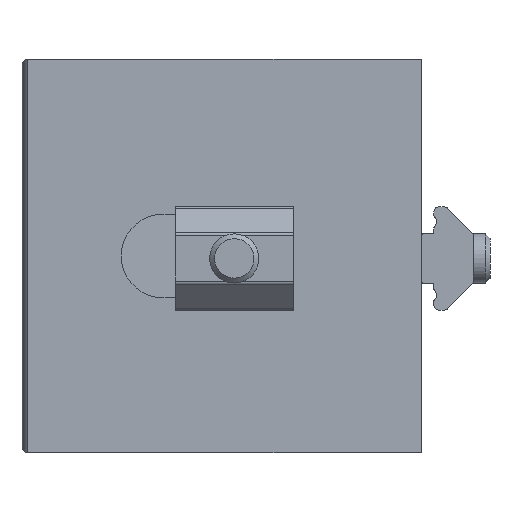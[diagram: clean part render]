
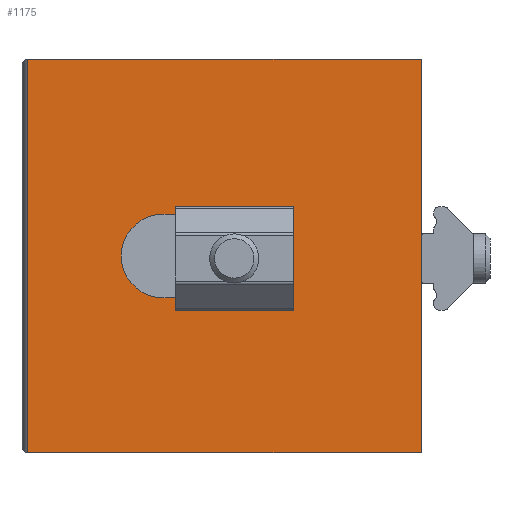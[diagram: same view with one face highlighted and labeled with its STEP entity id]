
A CAD part, front view. The second image highlights one B-rep face of the part: STEP entity #1175.
In plain terms, the highlighted planar face has unit normal (0, -1, 0).
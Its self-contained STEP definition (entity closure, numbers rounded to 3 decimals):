
#59=FACE_BOUND('',#193,.T.);
#79=PLANE('',#1301);
#122=FACE_OUTER_BOUND('',#192,.T.);
#192=EDGE_LOOP('',(#862,#863,#864,#865));
#193=EDGE_LOOP('',(#866,#867,#868,#869));
#270=LINE('',#1821,#382);
#274=LINE('',#1832,#386);
#285=LINE('',#1856,#397);
#286=LINE('',#1858,#398);
#287=LINE('',#1860,#399);
#288=LINE('',#1861,#400);
#382=VECTOR('',#1448,10.);
#386=VECTOR('',#1460,10.);
#397=VECTOR('',#1481,10.);
#398=VECTOR('',#1482,10.);
#399=VECTOR('',#1483,10.);
#400=VECTOR('',#1484,10.);
#488=CIRCLE('',#1290,4.25);
#490=CIRCLE('',#1294,4.25);
#540=VERTEX_POINT('',#1811);
#541=VERTEX_POINT('',#1812);
#544=VERTEX_POINT('',#1820);
#546=VERTEX_POINT('',#1826);
#554=VERTEX_POINT('',#1854);
#555=VERTEX_POINT('',#1855);
#556=VERTEX_POINT('',#1857);
#557=VERTEX_POINT('',#1859);
#656=EDGE_CURVE('',#540,#541,#488,.T.);
#660=EDGE_CURVE('',#541,#544,#270,.T.);
#663=EDGE_CURVE('',#544,#546,#490,.T.);
#666=EDGE_CURVE('',#546,#540,#274,.T.);
#677=EDGE_CURVE('',#554,#555,#285,.T.);
#678=EDGE_CURVE('',#555,#556,#286,.T.);
#679=EDGE_CURVE('',#557,#556,#287,.T.);
#680=EDGE_CURVE('',#554,#557,#288,.T.);
#862=ORIENTED_EDGE('',*,*,#677,.T.);
#863=ORIENTED_EDGE('',*,*,#678,.T.);
#864=ORIENTED_EDGE('',*,*,#679,.F.);
#865=ORIENTED_EDGE('',*,*,#680,.F.);
#866=ORIENTED_EDGE('',*,*,#663,.T.);
#867=ORIENTED_EDGE('',*,*,#666,.T.);
#868=ORIENTED_EDGE('',*,*,#656,.T.);
#869=ORIENTED_EDGE('',*,*,#660,.T.);
#1175=ADVANCED_FACE('',(#122,#59),#79,.T.);
#1290=AXIS2_PLACEMENT_3D('',#1813,#1440,#1441);
#1294=AXIS2_PLACEMENT_3D('',#1827,#1453,#1454);
#1301=AXIS2_PLACEMENT_3D('',#1853,#1479,#1480);
#1440=DIRECTION('center_axis',(0.,1.,0.));
#1441=DIRECTION('ref_axis',(0.,0.,-1.));
#1448=DIRECTION('',(-1.,0.,0.));
#1453=DIRECTION('center_axis',(0.,1.,0.));
#1454=DIRECTION('ref_axis',(0.,0.,1.));
#1460=DIRECTION('',(1.,0.,0.));
#1479=DIRECTION('center_axis',(0.,-1.,0.));
#1480=DIRECTION('ref_axis',(1.,0.,0.));
#1481=DIRECTION('',(1.,0.,0.));
#1482=DIRECTION('',(0.,0.,1.));
#1483=DIRECTION('',(1.,0.,0.));
#1484=DIRECTION('',(0.,0.,1.));
#1811=CARTESIAN_POINT('',(0.75,-20.,24.25));
#1812=CARTESIAN_POINT('',(0.75,-20.,15.75));
#1813=CARTESIAN_POINT('Origin',(0.75,-20.,20.));
#1820=CARTESIAN_POINT('',(-6.25,-20.,15.75));
#1821=CARTESIAN_POINT('',(-13.125,-20.,15.75));
#1826=CARTESIAN_POINT('',(-6.25,-20.,24.25));
#1827=CARTESIAN_POINT('Origin',(-6.25,-20.,20.));
#1832=CARTESIAN_POINT('',(-9.625,-20.,24.25));
#1853=CARTESIAN_POINT('Origin',(-20.,-20.,0.));
#1854=CARTESIAN_POINT('',(-20.,-20.,0.));
#1855=CARTESIAN_POINT('',(20.,-20.,0.));
#1856=CARTESIAN_POINT('',(-20.,-20.,0.));
#1857=CARTESIAN_POINT('',(20.,-20.,40.));
#1858=CARTESIAN_POINT('',(20.,-20.,0.));
#1859=CARTESIAN_POINT('',(-20.,-20.,40.));
#1860=CARTESIAN_POINT('',(-20.,-20.,40.));
#1861=CARTESIAN_POINT('',(-20.,-20.,0.));
